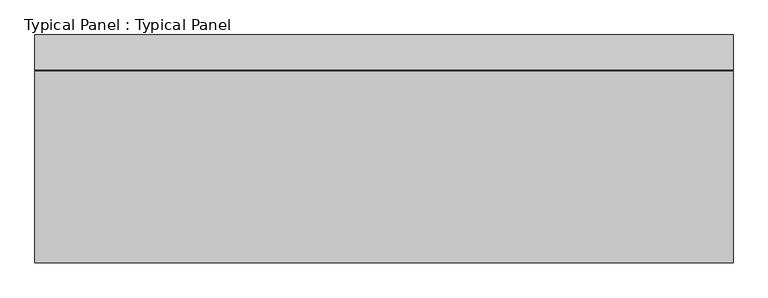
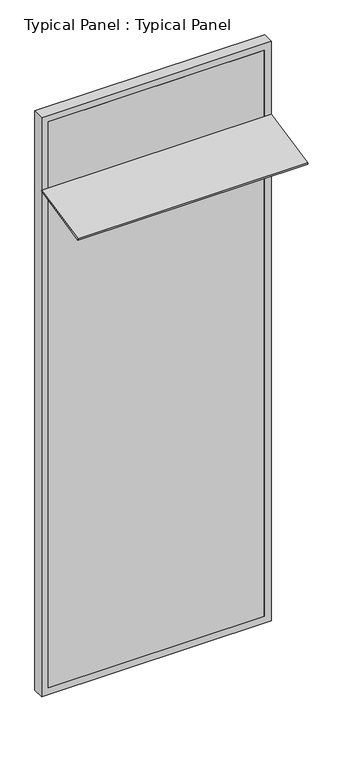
"""IFC4 building model written with IfcOpenShell, lengths in millimetres: plate geometry, Typical Panel : Typical Panel."""

from ifc_helpers import new_model, si_unit, frame, origin, place, context, project, spatial, polyline, outline, extrude, source, transform, mapped, element, save


def typical_panel_typical_panel_9333b02c(model_context):
    return source(origin(), model_context, "Body", "SweptSolid", [
        extrude(outline(polyline([(0.0, -420.0), (0.0, 0.0), (1500.0, 0.0), (1500.0, -420.0), (0.0, -420.0)])), frame((750.0, -413.7428754, 3402.8956138), z_axis=(0.0, -0.2079116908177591, 0.9781476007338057), x_axis=(-1.0, 0.0, 0.0)), (0.0, 0.0, 1.0), 10.0),
        extrude(outline(polyline([(0.0, -750.0), (0.0, 750.0), (4000.0, 750.0), (4000.0, -750.0), (0.0, -750.0)]), holes=[polyline([(45.0, 705.0), (45.0, -705.0), (3955.0, -705.0), (3955.0, 705.0), (45.0, 705.0)])]), frame((0.0, -1.5797986, 0.0), z_axis=(0.0, 1.0, 0.0), x_axis=(0.0, 0.0, 1.0)), (0.0, 0.0, 1.0), 75.0),
        extrude(outline(polyline([(705.0, -1.5797986), (-705.0, -1.5797986), (-705.0, 13.4202014), (705.0, 13.4202014), (705.0, -1.5797986)])), frame((0.0, 0.0, 45.0), z_axis=(0.0, 0.0, 1.0), x_axis=(1.0, 0.0, 0.0)), (0.0, 0.0, 1.0), 3910.0),
    ])


if __name__ == "__main__":
    model = new_model("IFC4")
    model_context = context("Model", 3, world=origin())
    ifc_project = project(units=[si_unit("LENGTHUNIT", "METRE", prefix="MILLI")], contexts=[model_context])
    site = spatial("IfcSite", under=ifc_project)
    building = spatial("IfcBuilding", under=site)
    placement = place(None, origin())
    typical_panel_typical_panel_shape = typical_panel_typical_panel_9333b02c(model_context)
    element("IfcPlate", 1, ObjectType="Typical Panel : Typical Panel", at=placement, inside=building, context=model_context, shape_type="MappedRepresentation", body=[
        mapped(typical_panel_typical_panel_shape, transform((0.0, 0.0, 0.0), x_axis=(1.0, 0.0, 0.0), y_axis=(0.0, 1.0, 0.0), z_axis=(0.0, 0.0, 1.0))),
    ])
    save(model, "model.ifc")
